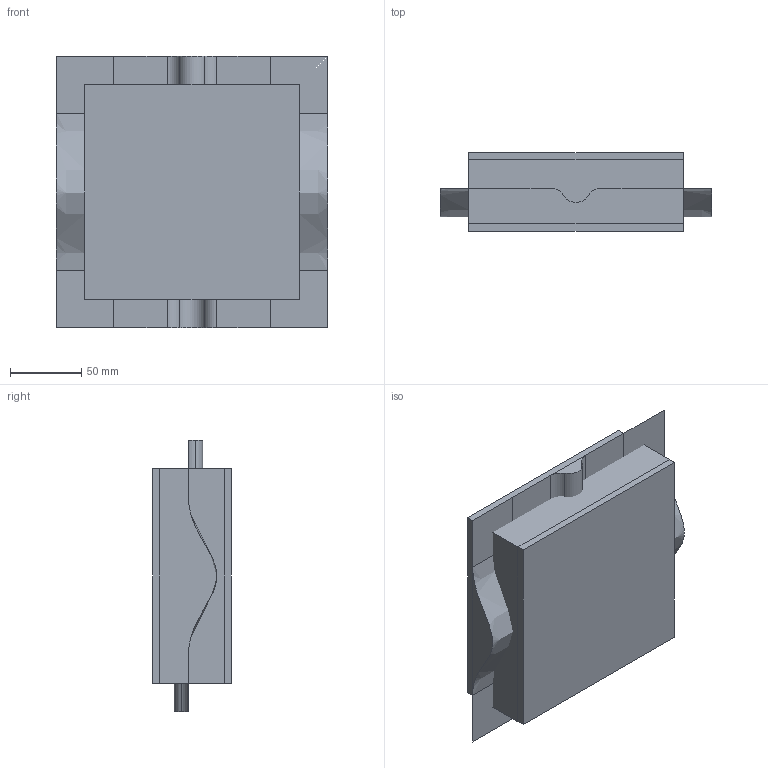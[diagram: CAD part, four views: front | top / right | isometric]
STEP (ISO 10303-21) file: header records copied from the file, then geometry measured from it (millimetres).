
FILE_DESCRIPTION(('CATIA V5 STEP Exchange'),'2;1');
FILE_NAME('C:\_Andres\UNIVERSIDAD\IQS\ASIGNATURAS\DAO\EXF\EXF-16172c\2inicio\Duch_Leira_Ej02_v10.stp','2017-03-05T15:45:20+00:00',('none'),('none'),'CATIA Version 5-6 Release 2014 SP1 HF18','CATIA V5 STEP AP203','none');
FILE_SCHEMA(('CONFIG_CONTROL_DESIGN'));
Length unit declared in the file: millimetre
Products named in the file (1): Duch_Leira_Ej02_v10
Bounding box: 190 x 55 x 190 mm (x, y, z)
Surface area: 230548.2 mm2
Topology: 3 solids, 10 shells, 72 faces, 205 edges, 150 vertices
Faces by surface type: bspline 32, plane 32, cylinder 6, extrusion 2
Entity records: 6596 total; most frequent: CARTESIAN_POINT 5279, ORIENTED_EDGE 288, DIRECTION 151, EDGE_CURVE 132, VERTEX_POINT 84, VECTOR 77, LINE 75, ADVANCED_FACE 72
